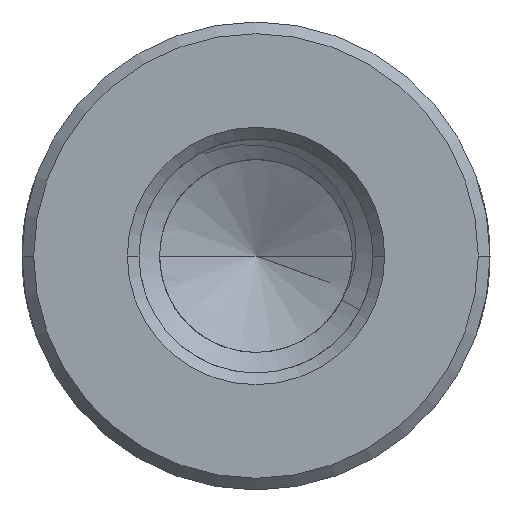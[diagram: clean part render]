
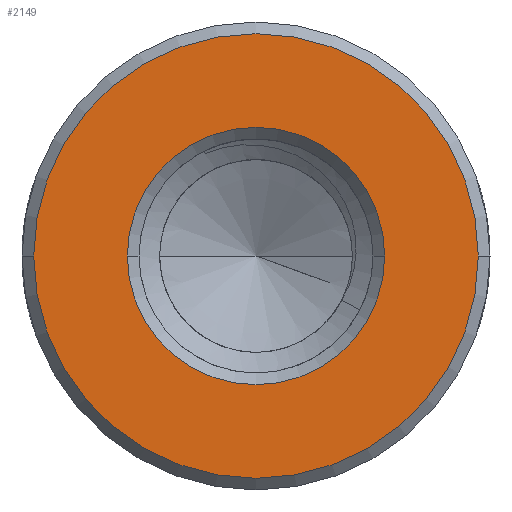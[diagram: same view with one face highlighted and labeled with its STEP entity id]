
A CAD part, front view. The second image highlights one B-rep face of the part: STEP entity #2149.
In plain terms, the highlighted planar face has unit normal (0, -1, 0).
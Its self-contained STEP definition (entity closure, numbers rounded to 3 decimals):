
#1=CARTESIAN_POINT('',(0.,-40.,0.));
#2=DIRECTION('',(0.,-1.,0.));
#3=DIRECTION('',(-1.,0.,0.));
#4=AXIS2_PLACEMENT_3D('',#1,#2,#3);
#6=CARTESIAN_POINT('',(0.,-40.,0.));
#7=DIRECTION('',(0.,-1.,0.));
#8=DIRECTION('',(1.,0.,0.));
#9=AXIS2_PLACEMENT_3D('',#6,#7,#8);
#11=CARTESIAN_POINT('',(0.,-40.,0.));
#12=DIRECTION('',(0.,1.,0.));
#13=DIRECTION('',(-1.,0.,0.));
#14=AXIS2_PLACEMENT_3D('',#11,#12,#13);
#16=CARTESIAN_POINT('',(0.,-40.,0.));
#17=DIRECTION('',(0.,1.,0.));
#18=DIRECTION('',(1.,0.,0.));
#19=AXIS2_PLACEMENT_3D('',#16,#17,#18);
#1992=CARTESIAN_POINT('',(-5.7,-40.,0.));
#1993=CARTESIAN_POINT('',(5.7,-40.,0.));
#1994=VERTEX_POINT('',#1992);
#1995=VERTEX_POINT('',#1993);
#2086=CARTESIAN_POINT('',(-3.3,-40.,0.));
#2087=CARTESIAN_POINT('',(3.3,-40.,0.));
#2088=VERTEX_POINT('',#2086);
#2089=VERTEX_POINT('',#2087);
#2132=CARTESIAN_POINT('',(0.,-40.,0.));
#2133=DIRECTION('',(0.,1.,0.));
#2134=DIRECTION('',(1.,0.,0.));
#2135=AXIS2_PLACEMENT_3D('',#2132,#2133,#2134);
#2136=PLANE('',#2135);
#2138=ORIENTED_EDGE('',*,*,#2137,.F.);
#2140=ORIENTED_EDGE('',*,*,#2139,.F.);
#2141=EDGE_LOOP('',(#2138,#2140));
#2142=FACE_OUTER_BOUND('',#2141,.F.);
#2144=ORIENTED_EDGE('',*,*,#2143,.F.);
#2146=ORIENTED_EDGE('',*,*,#2145,.F.);
#2147=EDGE_LOOP('',(#2144,#2146));
#2148=FACE_BOUND('',#2147,.F.);
#2149=ADVANCED_FACE('',(#2142,#2148),#2136,.F.);
#5=CIRCLE('',#4,5.7);
#10=CIRCLE('',#9,5.7);
#15=CIRCLE('',#14,3.3);
#20=CIRCLE('',#19,3.3);
#2137=EDGE_CURVE('',#1994,#1995,#5,.T.);
#2139=EDGE_CURVE('',#1995,#1994,#10,.T.);
#2143=EDGE_CURVE('',#2088,#2089,#15,.T.);
#2145=EDGE_CURVE('',#2089,#2088,#20,.T.);
